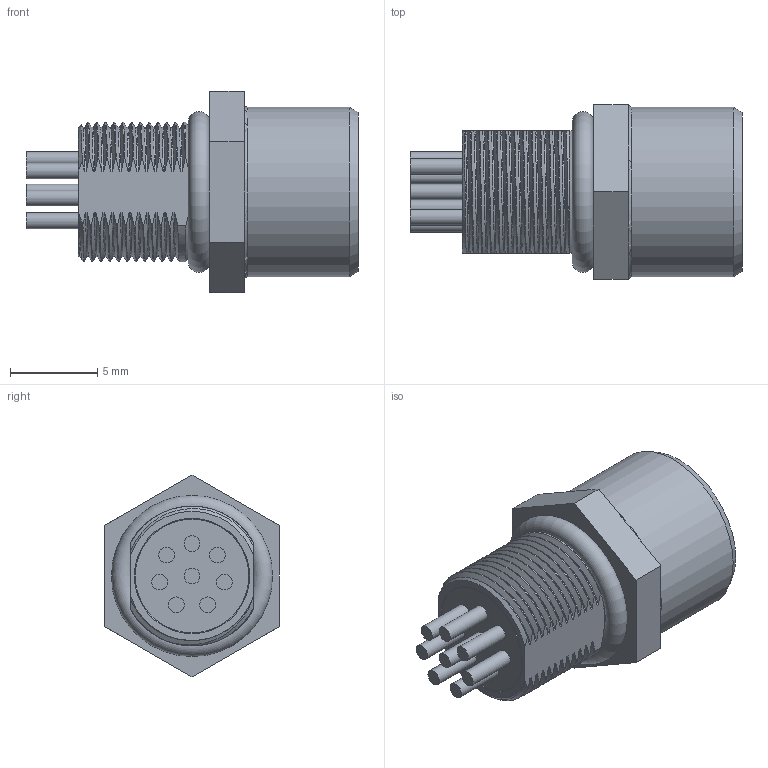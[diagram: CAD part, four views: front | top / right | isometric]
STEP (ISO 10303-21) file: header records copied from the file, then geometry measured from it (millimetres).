
FILE_DESCRIPTION(/* description */ (''),/* implementation_level */ '2;1');
FILE_NAME(/* name */ '09 3486 00 08 001_00.stp',/* time_stamp */ '2017-09-13T08:13:35+02:00',/* author */ (''),/* organization */ (''),/* preprocessor_version */ 'ST-DEVELOPER v16',/* originating_system */ 'SIEMENS PLM Software NX 11.0',/* authorisation */ '');
FILE_SCHEMA (('AUTOMOTIVE_DESIGN { 1 0 10303 214 3 1 1 1 }'));
Products named in the file (1): smag03D0802C7ce4
Bounding box: 19 x 10 x 11.55 mm (x, y, z)
Volume: 869.6 mm3; surface area: 1294.5 mm2
Topology: 1 solids, 2 shells, 321 faces, 795 edges, 524 vertices
Faces by surface type: plane 102, cylinder 90, bspline 69, extrusion 32, cone 19, torus 9
Full cylindrical faces by diameter (mm): 0.7 x8, 0.9 x8, 1.03 x8, 5.65 x1, 6.5 x1, 6.8 x2, 7.4 x1, 8.1 x2, 9.7 x1
Entity records: 35601 total; most frequent: CARTESIAN_POINT 28879, ORIENTED_EDGE 1452, DIRECTION 1072, EDGE_CURVE 726, VERTEX_POINT 506, EDGE_LOOP 422, AXIS2_PLACEMENT_3D 386, B_SPLINE_CURVE_WITH_KNOTS 325
